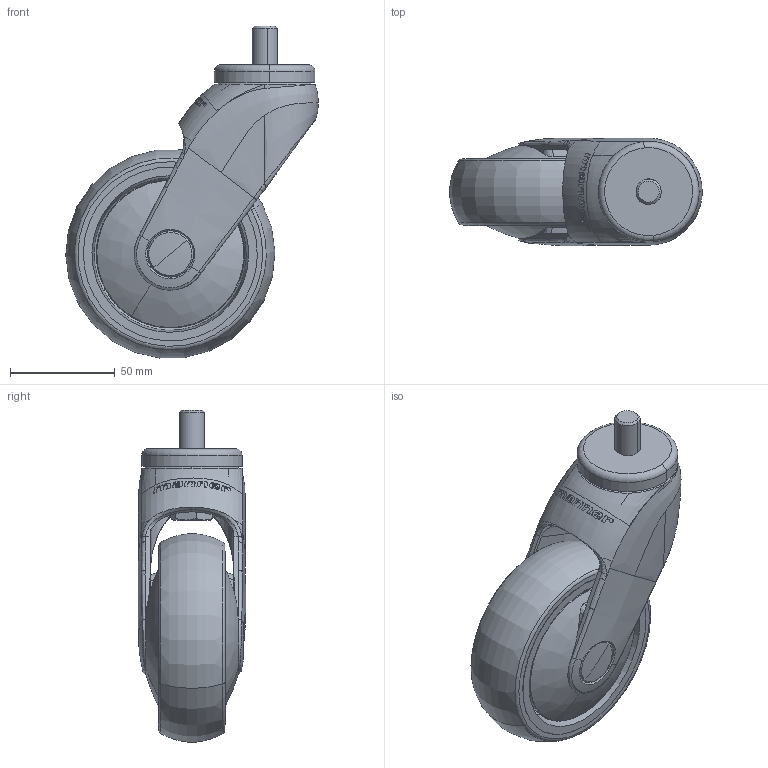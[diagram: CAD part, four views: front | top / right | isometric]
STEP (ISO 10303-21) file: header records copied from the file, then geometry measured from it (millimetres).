
FILE_DESCRIPTION (( 'STEP AP203' ), '1' );
FILE_NAME ('301748.STEP', '2010-07-15T07:55:01', ( ' ' ), ( ' ' ), 'SwSTEP 2.0', 'SolidWorks 2007', '' );
FILE_SCHEMA (( 'CONFIG_CONTROL_DESIGN' ));
Length unit declared in the file: millimetre
Products named in the file (1): 301748
Bounding box: 120.48 x 51.24 x 158.42 mm (x, y, z)
Volume: 232449.4 mm3; surface area: 122196.3 mm2
Topology: 21 solids, 21 shells, 754 faces, 2541 edges, 1837 vertices
Faces by surface type: plane 197, bspline 182, cylinder 176, cone 113, torus 66, sphere 20
Entity records: 72611 total; most frequent: CARTESIAN_POINT 53258, ORIENTED_EDGE 4980, DIRECTION 2865, EDGE_CURVE 2490, VERTEX_POINT 1813, B_SPLINE_CURVE_WITH_KNOTS 1291, AXIS2_PLACEMENT_3D 1209, EDGE_LOOP 813
